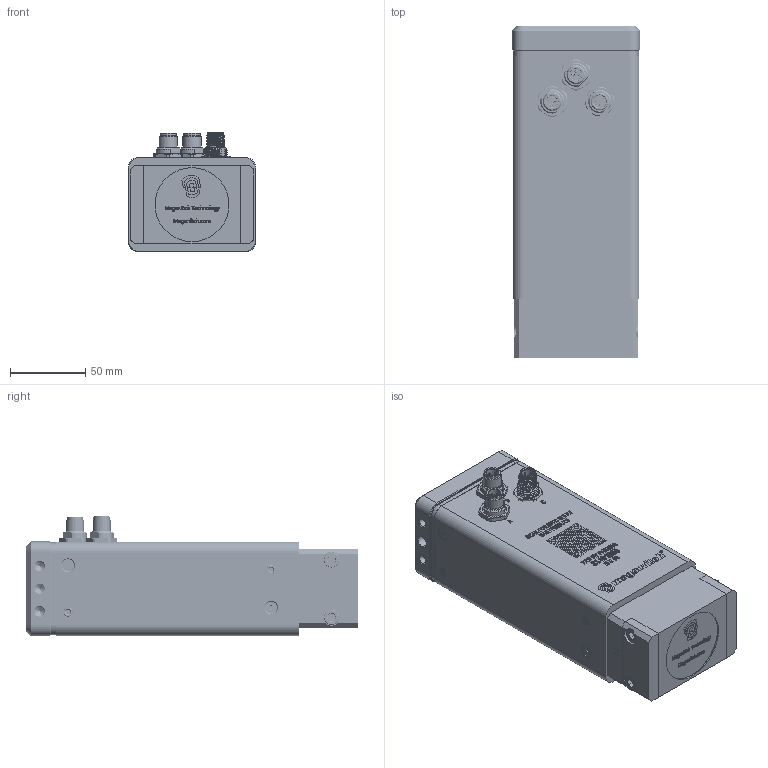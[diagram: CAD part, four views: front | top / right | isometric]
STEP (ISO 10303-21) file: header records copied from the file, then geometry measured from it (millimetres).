
FILE_DESCRIPTION (( 'STEP AP203' ), '1' );
FILE_NAME ('80001665_CFM.STEP', '2025-08-14T21:08:13', ( '' ), ( '' ), 'SwSTEP 2.0', 'SolidWorks 2024', '' );
FILE_SCHEMA (( 'CONFIG_CONTROL_DESIGN' ));
Products named in the file (1): 80001665_CFM
Bounding box: 84.6 x 220 x 79.4 mm (x, y, z)
Volume: 1097991.8 mm3; surface area: 102218.3 mm2
Topology: 24 solids, 31 shells, 3040 faces, 9278 edges, 6609 vertices
Faces by surface type: plane 1119, cylinder 975, bspline 515, cone 380, torus 51
Entity records: 161295 total; most frequent: CARTESIAN_POINT 84351, ORIENTED_EDGE 18404, DIRECTION 12776, EDGE_CURVE 9202, VERTEX_POINT 6607, VECTOR 4464, LINE 4464, AXIS2_PLACEMENT_3D 4156
